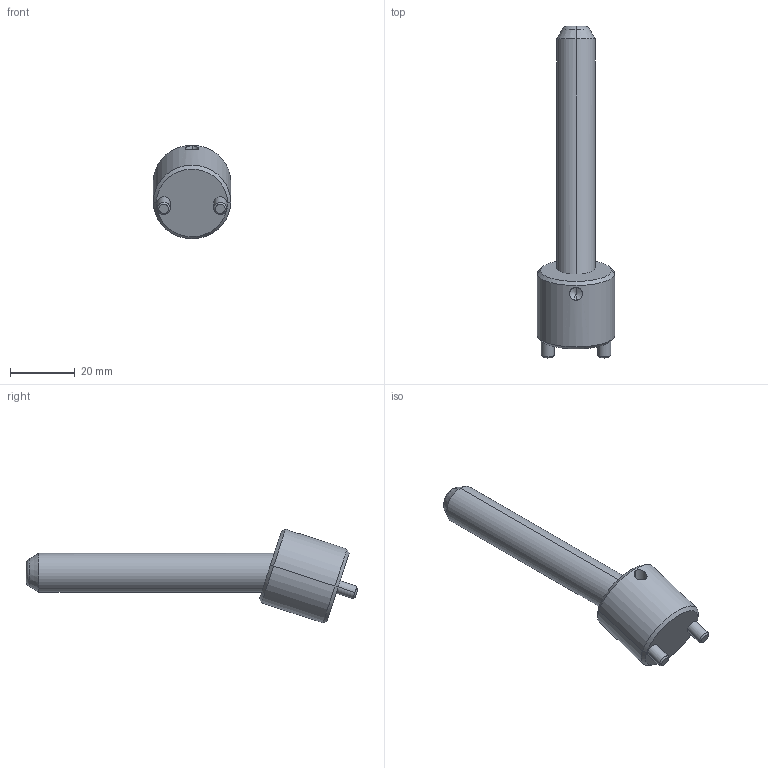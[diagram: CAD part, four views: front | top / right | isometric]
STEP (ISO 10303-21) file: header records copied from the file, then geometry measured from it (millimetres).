
FILE_DESCRIPTION(('CATIA V5 STEP Exchange'),'2;1');
FILE_NAME('C:\Users\Raffaele\Desktop\3D BOLEX\3D FILES CF BOLEX\19-INCLINED ASSEMBLY REF_CI\CI1812075.stp','2019-06-21T12:35:33+00:00',('none'),('none'),'CATIA Version 5 Release 20 GA (IN-10)','CATIA V5 STEP AP203','none');
FILE_SCHEMA(('CONFIG_CONTROL_DESIGN'));
Length unit declared in the file: millimetre
Products named in the file (1): CI1812075
Assembly tree (2 placements, depth 2):
  CI1812075
    #58
    #578
Bounding box: 24 x 102.87 x 29.01 mm (x, y, z)
Volume: 18199 mm3; surface area: 7017.5 mm2
Topology: 2 solids, 2 shells, 39 faces, 82 edges, 47 vertices
Faces by surface type: cone 14, cylinder 14, plane 7, torus 4
Entity records: 1470 total; most frequent: CARTESIAN_POINT 611, ORIENTED_EDGE 160, DIRECTION 145, EDGE_CURVE 80, AXIS2_PLACEMENT_3D 72, VERTEX_POINT 47, EDGE_LOOP 43, ADVANCED_FACE 39
